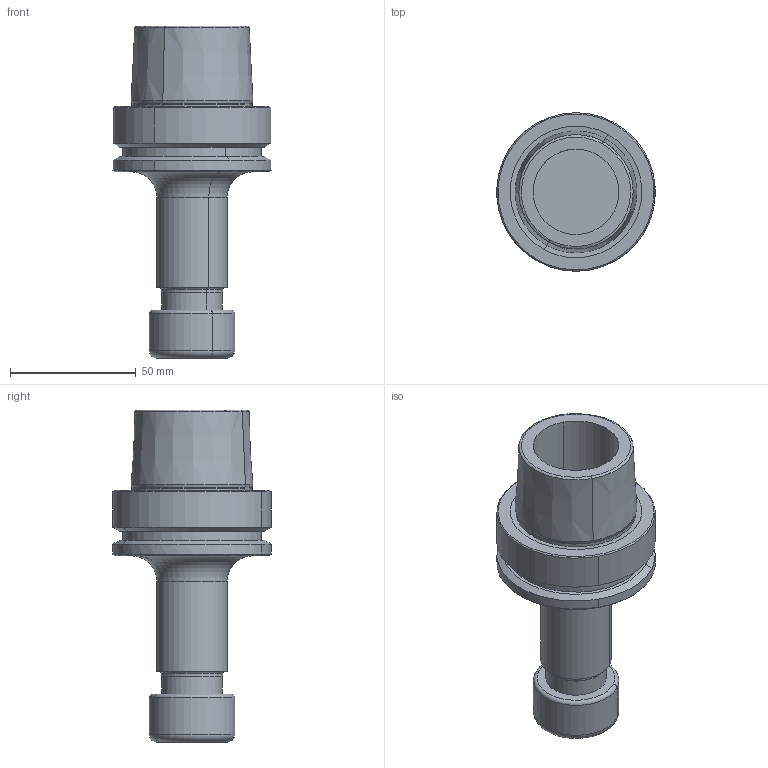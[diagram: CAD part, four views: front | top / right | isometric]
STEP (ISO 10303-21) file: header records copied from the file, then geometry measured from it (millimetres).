
FILE_DESCRIPTION(('CATIA V5 STEP','CAx-IF Rec.Pracs.--- Model Styling and Organization---1.2---2011-12-15'),'2;1');
FILE_NAME('\\nas01\drv1\utils\eitdev\rte\eit\transmagicconvert\db\out\635930136120900505\4561140-L-B.stp','2016-03-08T04:00:23+00:00',('none'),('none'),'CATIA Version 5 Release 21 SP 5 (IN-10)','CATIA V5 STEP AP214','none');
FILE_SCHEMA(('AUTOMOTIVE_DESIGN { 1 0 10303 214 1 1 1 1 }'));
Length unit declared in the file: millimetre
Products named in the file (1): HSK A 63 ER20X100 M
Bounding box: 62.98 x 63 x 132 mm (x, y, z)
Volume: 136591.3 mm3; surface area: 30577.7 mm2
Topology: 1 solids, 1 shells, 68 faces, 148 edges, 89 vertices
Faces by surface type: cylinder 24, cone 20, torus 14, plane 10
Entity records: 1749 total; most frequent: CARTESIAN_POINT 382, ORIENTED_EDGE 292, DIRECTION 222, EDGE_CURVE 146, AXIS2_PLACEMENT_3D 138, CIRCLE 96, VERTEX_POINT 89, EDGE_LOOP 77
